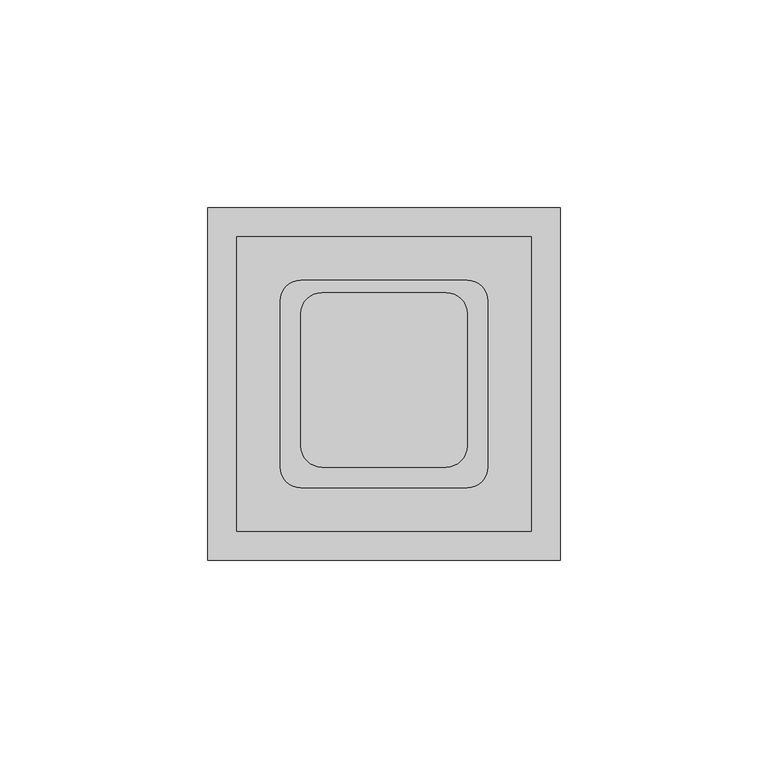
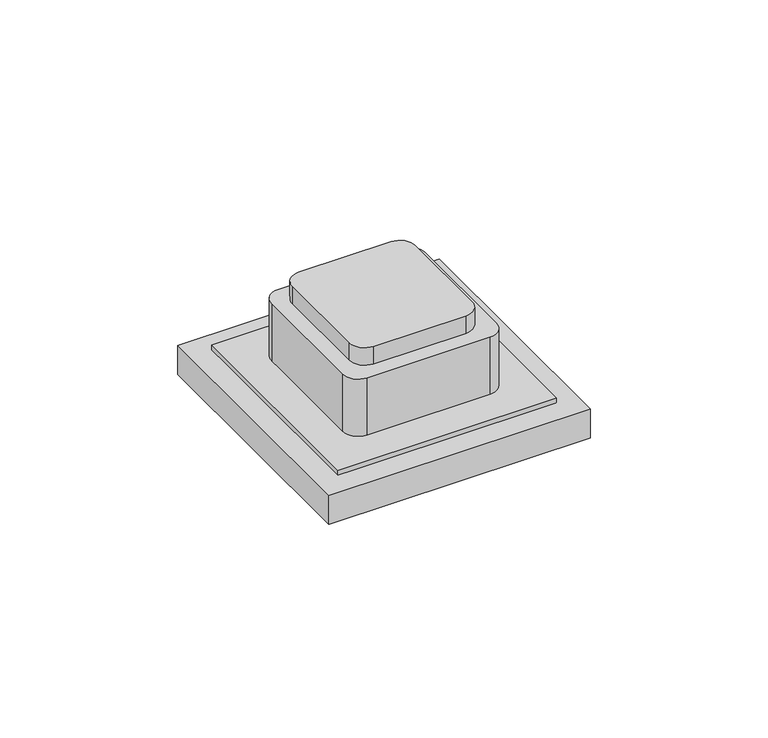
"""IFC4 building model written with IfcOpenShell, lengths in millimetres: proxy geometry, AI_Instal elec_Prise RJ45 : RJ45 Plafonnière."""

from ifc_helpers import new_model, si_unit, point, frame, frame_2d, origin, origin_with_axes, place, context, project, spatial, polyline, circle_curve, trimmed, segment, composite_curve, outline, extrude, source, transform, mapped, element, save


def electrical_fixtures_b5335298(model_context):
    return source(origin(), model_context, "Body", "SweptSolid", [
        extrude(outline(polyline([(-42.5, 0.0), (42.5, 0.0), (42.5, -85.0), (-42.5, -85.0), (-42.5, 0.0)])), frame((0.0, 0.0, -10.0), z_axis=(0.0, 0.0, 1.0), x_axis=(1.0, 0.0, 0.0)), (0.0, 0.0, 1.0), 10.0),
        extrude(outline(composite_curve([segment(polyline([(-20.0, -57.5), (-20.0, -25.5)]), True, "CONTINUOUS"), segment(trimmed(circle_curve(frame_2d((-15.0, -25.5)), 5.0), [point((-20.0, -25.5))], [point((-15.0, -20.5))], False, "CARTESIAN"), True, "CONTINUOUS"), segment(polyline([(-15.0, -20.5), (15.0, -20.5)]), True, "CONTINUOUS"), segment(trimmed(circle_curve(frame_2d((15.0, -25.5)), 5.0), [point((15.0, -20.5))], [point((20.0, -25.5))], False, "CARTESIAN"), True, "CONTINUOUS"), segment(polyline([(20.0, -25.5), (20.0, -57.5)]), True, "CONTINUOUS"), segment(trimmed(circle_curve(frame_2d((15.0, -57.5)), 5.0), [point((20.0, -57.5))], [point((15.0, -62.5))], False, "CARTESIAN"), True, "CONTINUOUS"), segment(polyline([(15.0, -62.5), (-15.0, -62.5)]), True, "CONTINUOUS"), segment(trimmed(circle_curve(frame_2d((-15.0, -57.5)), 5.0), [point((-15.0, -62.5))], [point((-20.0, -57.5))], False, "CARTESIAN"), True, "CONTINUOUS")], self_intersect=False)), frame((0.0, 0.0, 22.0), z_axis=(0.0, 0.0, 1.0), x_axis=(1.0, 0.0, 0.0)), (0.0, 0.0, 1.0), 6.0),
        extrude(outline(polyline([(-35.5, -78.0), (-35.5, -7.0), (35.5, -7.0), (35.5, -78.0), (-35.5, -78.0)])), origin_with_axes(), (0.0, 0.0, 1.0), 2.0),
        extrude(outline(composite_curve([segment(polyline([(-25.0, -62.5), (-25.0, -22.5)]), True, "CONTINUOUS"), segment(trimmed(circle_curve(frame_2d((-20.0, -22.5)), 5.0), [point((-25.0, -22.5))], [point((-20.0, -17.5))], False, "CARTESIAN"), True, "CONTINUOUS"), segment(polyline([(-20.0, -17.5), (20.0, -17.5)]), True, "CONTINUOUS"), segment(trimmed(circle_curve(frame_2d((20.0, -22.5)), 5.0), [point((20.0, -17.5))], [point((25.0, -22.5))], False, "CARTESIAN"), True, "CONTINUOUS"), segment(polyline([(25.0, -22.5), (25.0, -62.5)]), True, "CONTINUOUS"), segment(trimmed(circle_curve(frame_2d((20.0, -62.5)), 5.0), [point((25.0, -62.5))], [point((20.0, -67.5))], False, "CARTESIAN"), True, "CONTINUOUS"), segment(polyline([(20.0, -67.5), (-20.0, -67.5)]), True, "CONTINUOUS"), segment(trimmed(circle_curve(frame_2d((-20.0, -62.5)), 5.0), [point((-20.0, -67.5))], [point((-25.0, -62.5))], False, "CARTESIAN"), True, "CONTINUOUS")], self_intersect=False)), frame((0.0, 0.0, 2.0), z_axis=(0.0, 0.0, 1.0), x_axis=(1.0, 0.0, 0.0)), (0.0, 0.0, 1.0), 20.0),
        extrude(outline(polyline([(-5.6016634, -45.0682168), (-5.6016634, -37.4938834), (-2.0910502, -37.4938834), (-2.0910502, -35.718649), (2.0910502, -35.718649), (2.0910502, -37.4938834), (5.6016634, -37.4938834), (5.6016634, -45.0682168), (-5.6016634, -45.0682168)])), frame((0.0, 0.0, -22.1695427), z_axis=(0.0, 0.0, 1.0), x_axis=(1.0, 0.0, 0.0)), (0.0, 0.0, 1.0), 2.9208408),
        extrude(outline(polyline([(-25.0, -67.5), (-25.0, -17.5), (25.0, -17.5), (25.0, -67.5), (-25.0, -67.5)])), frame((0.0, 0.0, -19.2487018), z_axis=(0.0, 0.0, 1.0), x_axis=(1.0, 0.0, 0.0)), (0.0, 0.0, 1.0), 9.2487018),
        extrude(outline(composite_curve([segment(trimmed(circle_curve(frame_2d((0.0, -42.5)), 10.0), [point((-10.0, -42.5))], [point((10.0, -42.5))], False, "CARTESIAN"), True, "CONTINUOUS"), segment(trimmed(circle_curve(frame_2d((0.0, -42.5)), 10.0), [point((10.0, -42.5))], [point((-10.0, -42.5))], False, "CARTESIAN"), True, "CONTINUOUS")], self_intersect=False)), frame((0.0, 0.0, -10.0), z_axis=(0.0, 0.0, 1.0), x_axis=(1.0, 0.0, 0.0)), (0.0, 0.0, 1.0), 10.0),
    ])


if __name__ == "__main__":
    model = new_model("IFC4")
    model_context = context("Model", 3, world=origin())
    ifc_project = project(units=[si_unit("LENGTHUNIT", "METRE", prefix="MILLI")], contexts=[model_context])
    site = spatial("IfcSite", under=ifc_project)
    building = spatial("IfcBuilding", under=site)
    placement = place(None, origin())
    electrical_fixtures_shape = electrical_fixtures_b5335298(model_context)
    element("IfcBuildingElementProxy", 1, Name="AI_Instal elec_Prise RJ45 : RJ45 Plafonnière", ObjectType="AI_Instal elec_Prise RJ45 : RJ45 Plafonnière", at=placement, inside=building, context=model_context, shape_type="MappedRepresentation", body=[
        mapped(electrical_fixtures_shape, transform((0.0, 0.0, 0.0), x_axis=(1.0, 0.0, 0.0), y_axis=(0.0, 1.0, 0.0), z_axis=(0.0, 0.0, 1.0))),
    ])
    save(model, "model.ifc")
